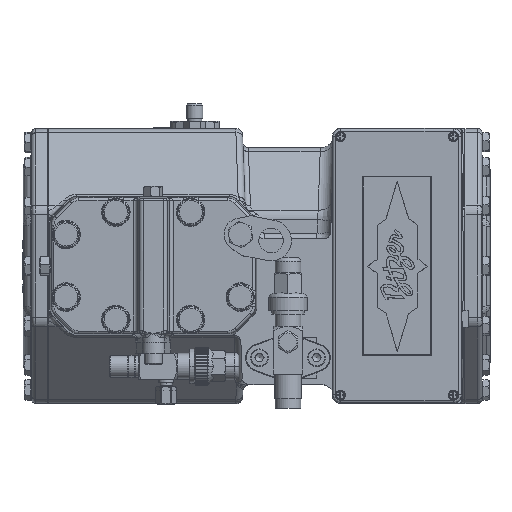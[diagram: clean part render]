
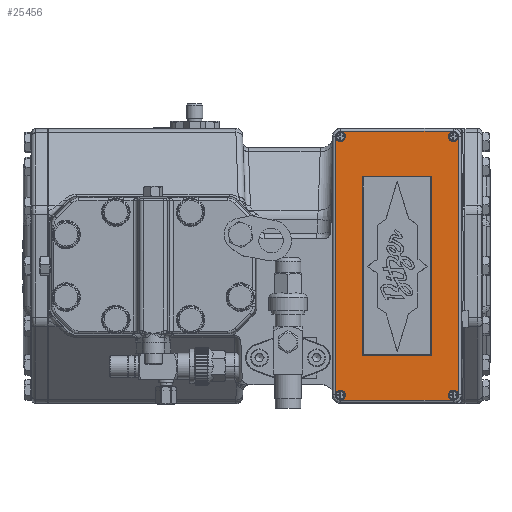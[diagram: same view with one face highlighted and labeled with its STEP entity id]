
A CAD part, top view. The second image highlights one B-rep face of the part: STEP entity #25456.
In plain terms, the highlighted planar face has unit normal (0, 0, 1).
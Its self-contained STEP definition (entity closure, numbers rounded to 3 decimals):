
#11945=PLANE('',#69568);
#15994=ELLIPSE('',#69556,4.001,4.);
#15995=ELLIPSE('',#69558,4.001,4.);
#15996=ELLIPSE('',#69559,4.001,4.);
#15997=ELLIPSE('',#69561,4.001,4.);
#15998=ELLIPSE('',#69562,4.001,4.);
#15999=ELLIPSE('',#69564,4.001,4.);
#16000=ELLIPSE('',#69565,4.001,4.);
#16001=ELLIPSE('',#69567,4.001,4.);
#18638=LINE('',#111365,#21862);
#18639=LINE('',#111370,#21863);
#18640=LINE('',#111374,#21864);
#18641=LINE('',#111378,#21865);
#18642=LINE('',#111388,#21866);
#18643=LINE('',#111396,#21867);
#18644=LINE('',#111404,#21868);
#18645=LINE('',#111412,#21869);
#21862=VECTOR('',#82981,1.);
#21863=VECTOR('',#82984,1.);
#21864=VECTOR('',#82987,1.);
#21865=VECTOR('',#82990,1.);
#21866=VECTOR('',#82999,1.);
#21867=VECTOR('',#83006,1.);
#21868=VECTOR('',#83013,1.);
#21869=VECTOR('',#83020,1.);
#25456=ADVANCED_FACE('',(#27861,#27862),#11945,.T.);
#27861=FACE_BOUND('',#31244,.T.);
#27862=FACE_BOUND('',#31245,.T.);
#31244=EDGE_LOOP('',(#44593,#44594,#44595,#44596,#44597,#44598,#44599,#44600));
#31245=EDGE_LOOP('',(#44601,#44602,#44603,#44604,#44605,#44606,#44607,#44608,
#44609,#44610,#44611,#44612,#44613,#44614,#44615,#44616));
#44593=ORIENTED_EDGE('',*,*,#60157,.T.);
#44594=ORIENTED_EDGE('',*,*,#60158,.T.);
#44595=ORIENTED_EDGE('',*,*,#60159,.T.);
#44596=ORIENTED_EDGE('',*,*,#60160,.T.);
#44597=ORIENTED_EDGE('',*,*,#60161,.T.);
#44598=ORIENTED_EDGE('',*,*,#60162,.T.);
#44599=ORIENTED_EDGE('',*,*,#60163,.T.);
#44600=ORIENTED_EDGE('',*,*,#60164,.T.);
#44601=ORIENTED_EDGE('',*,*,#60165,.T.);
#44602=ORIENTED_EDGE('',*,*,#60166,.F.);
#44603=ORIENTED_EDGE('',*,*,#60167,.T.);
#44604=ORIENTED_EDGE('',*,*,#60168,.T.);
#44605=ORIENTED_EDGE('',*,*,#60169,.T.);
#44606=ORIENTED_EDGE('',*,*,#60170,.F.);
#44607=ORIENTED_EDGE('',*,*,#60171,.T.);
#44608=ORIENTED_EDGE('',*,*,#60172,.T.);
#44609=ORIENTED_EDGE('',*,*,#60173,.T.);
#44610=ORIENTED_EDGE('',*,*,#60174,.F.);
#44611=ORIENTED_EDGE('',*,*,#60175,.T.);
#44612=ORIENTED_EDGE('',*,*,#60176,.T.);
#44613=ORIENTED_EDGE('',*,*,#60177,.T.);
#44614=ORIENTED_EDGE('',*,*,#60178,.F.);
#44615=ORIENTED_EDGE('',*,*,#60179,.T.);
#44616=ORIENTED_EDGE('',*,*,#60180,.T.);
#52605=VERTEX_POINT('',#111366);
#52606=VERTEX_POINT('',#111367);
#52607=VERTEX_POINT('',#111369);
#52608=VERTEX_POINT('',#111371);
#52609=VERTEX_POINT('',#111373);
#52610=VERTEX_POINT('',#111375);
#52611=VERTEX_POINT('',#111377);
#52612=VERTEX_POINT('',#111379);
#52613=VERTEX_POINT('',#111382);
#52614=VERTEX_POINT('',#111383);
#52615=VERTEX_POINT('',#111385);
#52616=VERTEX_POINT('',#111387);
#52617=VERTEX_POINT('',#111389);
#52618=VERTEX_POINT('',#111391);
#52619=VERTEX_POINT('',#111393);
#52620=VERTEX_POINT('',#111395);
#52621=VERTEX_POINT('',#111397);
#52622=VERTEX_POINT('',#111399);
#52623=VERTEX_POINT('',#111401);
#52624=VERTEX_POINT('',#111403);
#52625=VERTEX_POINT('',#111405);
#52626=VERTEX_POINT('',#111407);
#52627=VERTEX_POINT('',#111409);
#52628=VERTEX_POINT('',#111411);
#60157=EDGE_CURVE('',#52605,#52606,#18638,.T.);
#60158=EDGE_CURVE('',#52606,#52607,#64322,.T.);
#60159=EDGE_CURVE('',#52607,#52608,#18639,.T.);
#60160=EDGE_CURVE('',#52608,#52609,#64323,.T.);
#60161=EDGE_CURVE('',#52609,#52610,#18640,.T.);
#60162=EDGE_CURVE('',#52610,#52611,#64324,.T.);
#60163=EDGE_CURVE('',#52611,#52612,#18641,.T.);
#60164=EDGE_CURVE('',#52612,#52605,#64325,.T.);
#60165=EDGE_CURVE('',#52613,#52614,#15994,.T.);
#60166=EDGE_CURVE('',#52615,#52614,#64326,.T.);
#60167=EDGE_CURVE('',#52615,#52616,#15995,.T.);
#60168=EDGE_CURVE('',#52616,#52617,#18642,.T.);
#60169=EDGE_CURVE('',#52617,#52618,#15996,.T.);
#60170=EDGE_CURVE('',#52619,#52618,#64327,.T.);
#60171=EDGE_CURVE('',#52619,#52620,#15997,.T.);
#60172=EDGE_CURVE('',#52620,#52621,#18643,.T.);
#60173=EDGE_CURVE('',#52621,#52622,#15998,.T.);
#60174=EDGE_CURVE('',#52623,#52622,#64328,.T.);
#60175=EDGE_CURVE('',#52623,#52624,#15999,.T.);
#60176=EDGE_CURVE('',#52624,#52625,#18644,.T.);
#60177=EDGE_CURVE('',#52625,#52626,#16000,.T.);
#60178=EDGE_CURVE('',#52627,#52626,#64329,.T.);
#60179=EDGE_CURVE('',#52627,#52628,#16001,.T.);
#60180=EDGE_CURVE('',#52628,#52613,#18645,.T.);
#64322=CIRCLE('',#69552,0.35);
#64323=CIRCLE('',#69553,0.35);
#64324=CIRCLE('',#69554,0.35);
#64325=CIRCLE('',#69555,0.35);
#64326=CIRCLE('',#69557,3.7);
#64327=CIRCLE('',#69560,3.7);
#64328=CIRCLE('',#69563,3.7);
#64329=CIRCLE('',#69566,3.7);
#69552=AXIS2_PLACEMENT_3D('',#111368,#82982,#82983);
#69553=AXIS2_PLACEMENT_3D('',#111372,#82985,#82986);
#69554=AXIS2_PLACEMENT_3D('',#111376,#82988,#82989);
#69555=AXIS2_PLACEMENT_3D('',#111380,#82991,#82992);
#69556=AXIS2_PLACEMENT_3D('',#111381,#82993,#82994);
#69557=AXIS2_PLACEMENT_3D('',#111384,#82995,#82996);
#69558=AXIS2_PLACEMENT_3D('',#111386,#82997,#82998);
#69559=AXIS2_PLACEMENT_3D('',#111390,#83000,#83001);
#69560=AXIS2_PLACEMENT_3D('',#111392,#83002,#83003);
#69561=AXIS2_PLACEMENT_3D('',#111394,#83004,#83005);
#69562=AXIS2_PLACEMENT_3D('',#111398,#83007,#83008);
#69563=AXIS2_PLACEMENT_3D('',#111400,#83009,#83010);
#69564=AXIS2_PLACEMENT_3D('',#111402,#83011,#83012);
#69565=AXIS2_PLACEMENT_3D('',#111406,#83014,#83015);
#69566=AXIS2_PLACEMENT_3D('',#111408,#83016,#83017);
#69567=AXIS2_PLACEMENT_3D('',#111410,#83018,#83019);
#69568=AXIS2_PLACEMENT_3D('',#111413,#83021,#83022);
#82981=DIRECTION('',(0.,1.,0.));
#82982=DIRECTION('',(0.,0.,-1.));
#82983=DIRECTION('',(1.,0.,0.));
#82984=DIRECTION('',(1.,0.,0.));
#82985=DIRECTION('',(0.,0.,-1.));
#82986=DIRECTION('',(1.,0.,0.));
#82987=DIRECTION('',(0.,-1.,0.));
#82988=DIRECTION('',(0.,0.,-1.));
#82989=DIRECTION('',(1.,0.,0.));
#82990=DIRECTION('',(-1.,0.,0.));
#82991=DIRECTION('',(0.,0.,-1.));
#82992=DIRECTION('',(1.,0.,0.));
#82993=DIRECTION('',(0.,0.,1.));
#82994=DIRECTION('',(-0.707,-0.707,0.));
#82995=DIRECTION('',(0.,0.,1.));
#82996=DIRECTION('',(1.,0.,0.));
#82997=DIRECTION('',(0.,0.,1.));
#82998=DIRECTION('',(-0.707,-0.707,0.));
#82999=DIRECTION('',(-1.,0.,0.));
#83000=DIRECTION('',(0.,0.,1.));
#83001=DIRECTION('',(0.707,-0.707,0.));
#83002=DIRECTION('',(0.,0.,1.));
#83003=DIRECTION('',(1.,0.,0.));
#83004=DIRECTION('',(0.,0.,1.));
#83005=DIRECTION('',(0.707,-0.707,0.));
#83006=DIRECTION('',(0.,-1.,0.));
#83007=DIRECTION('',(0.,0.,1.));
#83008=DIRECTION('',(0.707,0.707,0.));
#83009=DIRECTION('',(0.,0.,1.));
#83010=DIRECTION('',(1.,0.,0.));
#83011=DIRECTION('',(0.,0.,1.));
#83012=DIRECTION('',(0.707,0.707,0.));
#83013=DIRECTION('',(1.,0.,0.));
#83014=DIRECTION('',(0.,0.,1.));
#83015=DIRECTION('',(-0.707,0.707,0.));
#83016=DIRECTION('',(0.,0.,1.));
#83017=DIRECTION('',(1.,0.,0.));
#83018=DIRECTION('',(0.,0.,1.));
#83019=DIRECTION('',(-0.707,0.707,0.));
#83020=DIRECTION('',(0.,1.,0.));
#83021=DIRECTION('',(0.,0.,1.));
#83022=DIRECTION('',(1.,0.,0.));
#111365=CARTESIAN_POINT('',(35.25,72.4,57.));
#111366=CARTESIAN_POINT('',(35.25,22.6,57.));
#111367=CARTESIAN_POINT('',(35.25,72.4,57.));
#111368=CARTESIAN_POINT('',(35.6,72.4,57.));
#111369=CARTESIAN_POINT('',(35.6,72.75,57.));
#111370=CARTESIAN_POINT('',(166.4,72.75,57.));
#111371=CARTESIAN_POINT('',(166.4,72.75,57.));
#111372=CARTESIAN_POINT('',(166.4,72.4,57.));
#111373=CARTESIAN_POINT('',(166.75,72.4,57.));
#111374=CARTESIAN_POINT('',(166.75,22.6,57.));
#111375=CARTESIAN_POINT('',(166.75,22.6,57.));
#111376=CARTESIAN_POINT('',(166.4,22.6,57.));
#111377=CARTESIAN_POINT('',(166.4,22.25,57.));
#111378=CARTESIAN_POINT('',(35.6,22.25,57.));
#111379=CARTESIAN_POINT('',(35.6,22.25,57.));
#111380=CARTESIAN_POINT('',(35.6,22.6,57.));
#111381=CARTESIAN_POINT('',(195.772,88.772,57.));
#111382=CARTESIAN_POINT('',(199.773,88.773,57.));
#111383=CARTESIAN_POINT('',(199.399,90.462,57.));
#111384=CARTESIAN_POINT('',(196.,89.,57.));
#111385=CARTESIAN_POINT('',(197.462,92.399,57.));
#111386=CARTESIAN_POINT('',(195.772,88.772,57.));
#111387=CARTESIAN_POINT('',(195.773,92.773,57.));
#111388=CARTESIAN_POINT('',(101.,92.773,57.));
#111389=CARTESIAN_POINT('',(6.227,92.773,57.));
#111390=CARTESIAN_POINT('',(6.228,88.772,57.));
#111391=CARTESIAN_POINT('',(4.538,92.399,57.));
#111392=CARTESIAN_POINT('',(6.,89.,57.));
#111393=CARTESIAN_POINT('',(2.601,90.462,57.));
#111394=CARTESIAN_POINT('',(6.228,88.772,57.));
#111395=CARTESIAN_POINT('',(2.227,88.773,57.));
#111396=CARTESIAN_POINT('',(2.227,47.5,57.));
#111397=CARTESIAN_POINT('',(2.227,6.227,57.));
#111398=CARTESIAN_POINT('',(6.228,6.228,57.));
#111399=CARTESIAN_POINT('',(2.601,4.538,57.));
#111400=CARTESIAN_POINT('',(6.,6.,57.));
#111401=CARTESIAN_POINT('',(4.538,2.601,57.));
#111402=CARTESIAN_POINT('',(6.228,6.228,57.));
#111403=CARTESIAN_POINT('',(6.227,2.227,57.));
#111404=CARTESIAN_POINT('',(101.,2.227,57.));
#111405=CARTESIAN_POINT('',(195.773,2.227,57.));
#111406=CARTESIAN_POINT('',(195.772,6.228,57.));
#111407=CARTESIAN_POINT('',(197.462,2.601,57.));
#111408=CARTESIAN_POINT('',(196.,6.,57.));
#111409=CARTESIAN_POINT('',(199.399,4.538,57.));
#111410=CARTESIAN_POINT('',(195.772,6.228,57.));
#111411=CARTESIAN_POINT('',(199.773,6.227,57.));
#111412=CARTESIAN_POINT('',(199.773,47.5,57.));
#111413=CARTESIAN_POINT('',(101.,47.5,57.));
